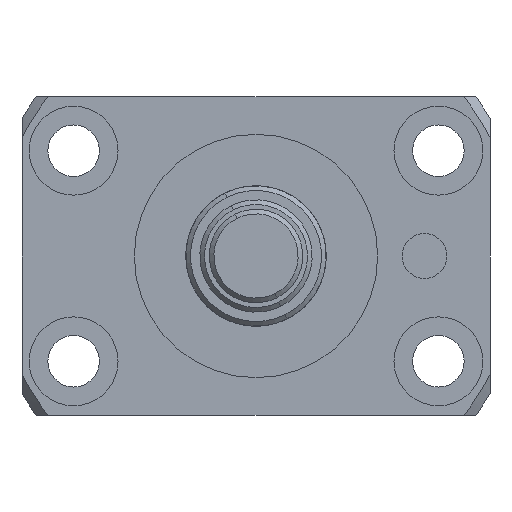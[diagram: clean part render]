
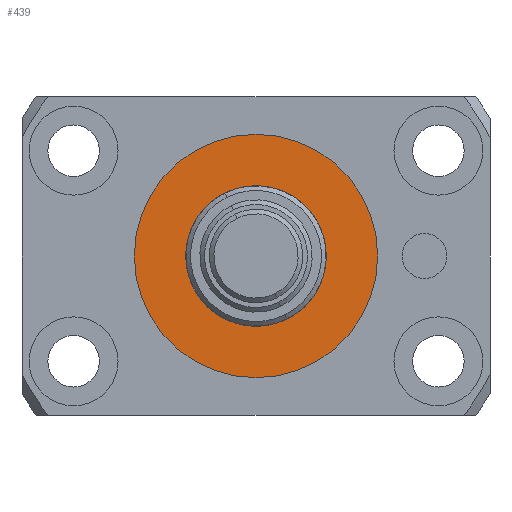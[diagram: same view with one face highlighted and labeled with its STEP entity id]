
A CAD part, left-side view. The second image highlights one B-rep face of the part: STEP entity #439.
In plain terms, the highlighted planar face has unit normal (-1, 0, 0).
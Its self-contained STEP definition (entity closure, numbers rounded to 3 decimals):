
#95 = DIRECTION ( 'NONE',  ( -1., 0., 0. ) ) ;
#110 = DIRECTION ( 'NONE',  ( -1., 0., 0. ) ) ;
#319 = EDGE_CURVE ( 'NONE', #2481, #3894, #1063, .T. ) ;
#439 = ADVANCED_FACE ( 'NONE', ( #3641, #473 ), #3048, .T. ) ;
#473 = FACE_BOUND ( 'NONE', #1043, .T. ) ;
#595 = AXIS2_PLACEMENT_3D ( 'NONE', #1406, #3526, #1730 ) ;
#642 = AXIS2_PLACEMENT_3D ( 'NONE', #1200, #3643, #1091 ) ;
#1043 = EDGE_LOOP ( 'NONE', ( #1779, #2545 ) ) ;
#1063 = CIRCLE ( 'NONE', #1785, 7.5 ) ;
#1079 = CARTESIAN_POINT ( 'NONE',  ( 6., 0., -7.5 ) ) ;
#1091 = DIRECTION ( 'NONE',  ( 0., 0., 1. ) ) ;
#1104 = VERTEX_POINT ( 'NONE', #2623 ) ;
#1125 = DIRECTION ( 'NONE',  ( 1., 0., 0. ) ) ;
#1200 = CARTESIAN_POINT ( 'NONE',  ( 6., 0., 0. ) ) ;
#1298 = CIRCLE ( 'NONE', #2703, 13. ) ;
#1334 = ORIENTED_EDGE ( 'NONE', *, *, #2383, .T. ) ;
#1406 = CARTESIAN_POINT ( 'NONE',  ( 6., 0., 0. ) ) ;
#1460 = EDGE_CURVE ( 'NONE', #2207, #1104, #1298, .T. ) ;
#1575 = AXIS2_PLACEMENT_3D ( 'NONE', #2005, #110, #2311 ) ;
#1637 = ORIENTED_EDGE ( 'NONE', *, *, #1460, .T. ) ;
#1730 = DIRECTION ( 'NONE',  ( 0., 0., 1. ) ) ;
#1779 = ORIENTED_EDGE ( 'NONE', *, *, #2035, .T. ) ;
#1785 = AXIS2_PLACEMENT_3D ( 'NONE', #2968, #1125, #3262 ) ;
#1996 = CARTESIAN_POINT ( 'NONE',  ( 6., 0., 0. ) ) ;
#2005 = CARTESIAN_POINT ( 'NONE',  ( 6., 0., 0. ) ) ;
#2035 = EDGE_CURVE ( 'NONE', #3894, #2481, #3723, .T. ) ;
#2207 = VERTEX_POINT ( 'NONE', #2378 ) ;
#2272 = CIRCLE ( 'NONE', #1575, 13. ) ;
#2299 = DIRECTION ( 'NONE',  ( 0., 0., 1. ) ) ;
#2311 = DIRECTION ( 'NONE',  ( 0., 0., 1. ) ) ;
#2378 = CARTESIAN_POINT ( 'NONE',  ( 6., 0., 13. ) ) ;
#2383 = EDGE_CURVE ( 'NONE', #1104, #2207, #2272, .T. ) ;
#2445 = CARTESIAN_POINT ( 'NONE',  ( 6., 0., 7.5 ) ) ;
#2481 = VERTEX_POINT ( 'NONE', #1079 ) ;
#2545 = ORIENTED_EDGE ( 'NONE', *, *, #319, .T. ) ;
#2623 = CARTESIAN_POINT ( 'NONE',  ( 6., 0., -13. ) ) ;
#2703 = AXIS2_PLACEMENT_3D ( 'NONE', #1996, #95, #2299 ) ;
#2968 = CARTESIAN_POINT ( 'NONE',  ( 6., 0., 0. ) ) ;
#3048 = PLANE ( 'NONE',  #642 ) ;
#3262 = DIRECTION ( 'NONE',  ( 0., 0., 1. ) ) ;
#3509 = EDGE_LOOP ( 'NONE', ( #1637, #1334 ) ) ;
#3526 = DIRECTION ( 'NONE',  ( 1., 0., 0. ) ) ;
#3641 = FACE_OUTER_BOUND ( 'NONE', #3509, .T. ) ;
#3643 = DIRECTION ( 'NONE',  ( -1., 0., 0. ) ) ;
#3723 = CIRCLE ( 'NONE', #595, 7.5 ) ;
#3894 = VERTEX_POINT ( 'NONE', #2445 ) ;
